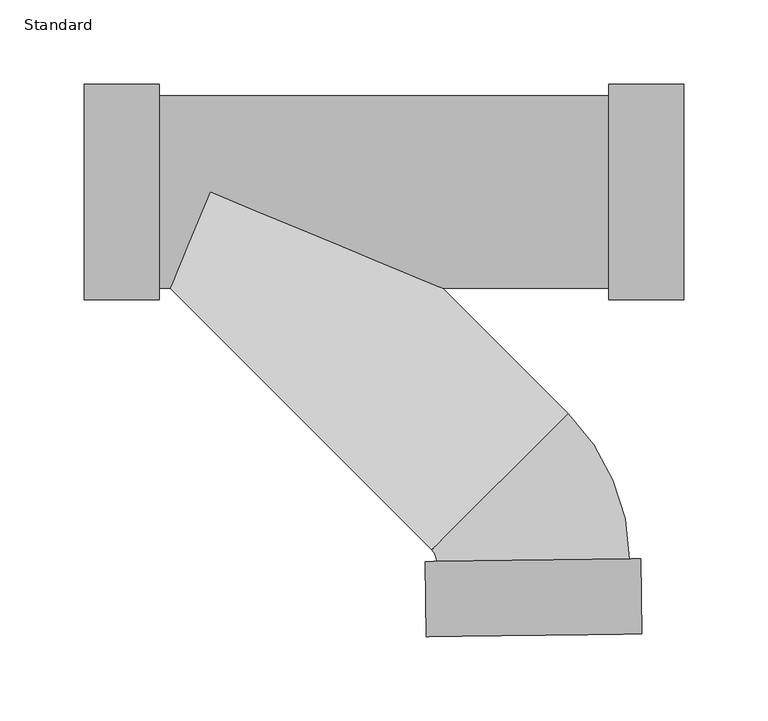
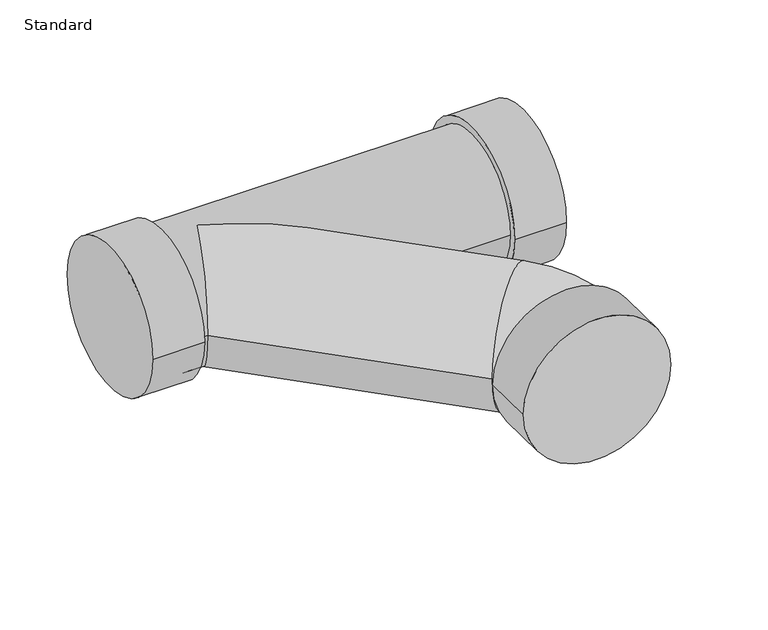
"""IFC4 building model written with IfcOpenShell, lengths in millimetres: pipe fitting geometry, GES Wye Combination with 8th Bend - PVC - Sch 40 - DWV : Standard."""

from ifc_helpers import new_model, si_unit, point, frame, origin, place, context, project, spatial, circle_curve, ellipse_curve, trimmed, source, transform, mapped, element, save
from ifc_brep_helpers import plane_surface, cylinder_surface, revolved_surface, advanced_brep


def standard_fcad7560(model_context):
    return source(origin(), model_context, "Body", "AdvancedBrep", [
        advanced_brep(
        [(-263.1663791, -63.754, 0.0), (-263.1663791, 63.754, 0.0), (-218.7163791, -63.754, 0.0), (-218.7163791, 63.754, 0.0), (-218.7163791, -57.15, 0.0), (-218.7163791, 57.15, 0.0), (47.5772209, 57.15, 0.0), (-212.3274389, -57.15, 0.0), (-188.6551338, 0.0, 57.15), (-50.6828287, -57.15, 0.0), (47.5772209, -57.15, 0.0), (-188.6551338, 0.0, -57.15), (47.5772209, -63.754, 0.0), (47.5772209, 63.754, 0.0), (92.0272209, -63.754, 0.0), (92.0272209, 63.754, 0.0), (-57.262686, -212.2147529, 0.0), (-54.399257, -219.0065327, 0.0), (59.8916987, -217.5686673, 0.0), (23.5596191, -131.3924478, 0.0), (-61.0027344, -219.0896094, 0.0), (66.4951761, -217.4855906, 0.0), (-60.4435645, -263.5360922, 0.0), (67.054346, -261.9320733, 0.0)],
        [
            (0, 1, circle_curve(frame((-263.1663791, 0.0, 0.0), z_axis=(-1.0, 0.0, 0.0), x_axis=(0.0, 1.0, 0.0)), 63.754)),
            (1, 0, circle_curve(frame((-263.1663791, 0.0, 0.0), z_axis=(-1.0, 0.0, 0.0), x_axis=(0.0, 1.0, 0.0)), 63.754)),
            (2, 3, circle_curve(frame((-218.7163791, 0.0, 0.0), z_axis=(1.0, 0.0, 0.0), x_axis=(0.0, 1.0, 0.0)), 63.754)),
            (3, 2, circle_curve(frame((-218.7163791, 0.0, 0.0), z_axis=(1.0, 0.0, 0.0), x_axis=(0.0, 1.0, 0.0)), 63.754)),
            (4, 5, circle_curve(frame((-218.7163791, 0.0, 0.0), z_axis=(-1.0, 0.0, 0.0), x_axis=(0.0, 1.0, 0.0)), 57.15)),
            (5, 4, circle_curve(frame((-218.7163791, 0.0, 0.0), z_axis=(-1.0, 0.0, 0.0), x_axis=(0.0, 1.0, 0.0)), 57.15)),
            (0, 2),
            (3, 1),
            (6, 5),
            (4, 7),
            (7, 8, ellipse_curve(frame((-188.6551338, 0.0, 0.0), z_axis=(-0.9238795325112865, 0.38268343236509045, 0.0), x_axis=(-0.38268343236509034, -0.9238795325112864, 0.0)), 61.8587142, 57.15)),
            (8, 9, ellipse_curve(frame((-188.6551338, 0.0, 0.0), z_axis=(0.38268343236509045, 0.9238795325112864, 0.0), x_axis=(-0.9238795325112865, 0.3826834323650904, 0.0)), 149.3401469, 57.15)),
            (9, 10),
            (10, 6, circle_curve(frame((47.5772209, 0.0, 0.0), z_axis=(-1.0, 0.0, 0.0), x_axis=(0.0, 1.0, 0.0)), 57.15)),
            (6, 10, circle_curve(frame((47.5772209, 0.0, 0.0), z_axis=(-1.0, 0.0, 0.0), x_axis=(0.0, 1.0, 0.0)), 57.15)),
            (9, 11, ellipse_curve(frame((-188.6551338, 0.0, 0.0), z_axis=(0.38268343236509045, 0.9238795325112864, 0.0), x_axis=(-0.9238795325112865, 0.3826834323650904, 0.0)), 149.3401469, 57.15)),
            (11, 7, ellipse_curve(frame((-188.6551338, 0.0, 0.0), z_axis=(-0.9238795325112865, 0.38268343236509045, 0.0), x_axis=(-0.38268343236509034, -0.9238795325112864, 0.0)), 61.8587142, 57.15)),
            (12, 13, circle_curve(frame((47.5772209, 0.0, 0.0), z_axis=(-1.0, 0.0, 0.0), x_axis=(0.0, 1.0, 0.0)), 63.754)),
            (13, 12, circle_curve(frame((47.5772209, 0.0, 0.0), z_axis=(-1.0, 0.0, 0.0), x_axis=(0.0, 1.0, 0.0)), 63.754)),
            (14, 15, circle_curve(frame((92.0272209, 0.0, 0.0), z_axis=(1.0, 0.0, 0.0), x_axis=(0.0, 1.0, 0.0)), 63.754)),
            (15, 14, circle_curve(frame((92.0272209, 0.0, 0.0), z_axis=(1.0, 0.0, 0.0), x_axis=(0.0, 1.0, 0.0)), 63.754)),
            (12, 14),
            (15, 13),
            (16, 17, circle_curve(frame((-64.1774832, -219.1295501, 0.0), z_axis=(0.0, 0.0, -1.0), x_axis=(0.9999208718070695, 0.012579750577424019, 0.0)), 9.779)),
            (17, 18, circle_curve(frame((2.7462209, -218.2876, 0.0), z_axis=(-0.012579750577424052, 0.9999208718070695, 0.0), x_axis=(-0.9999208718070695, -0.012579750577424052, 0.0)), 57.15)),
            (18, 19, circle_curve(frame((-64.1774832, -219.1295501, 0.0), z_axis=(0.0, 0.0, 1.0), x_axis=(0.9999208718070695, 0.012579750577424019, 0.0)), 124.079)),
            (19, 16, circle_curve(frame((-16.8515334, -171.8036004, 0.0), z_axis=(0.7071067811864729, -0.7071067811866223, 0.0), x_axis=(-0.7071067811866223, -0.7071067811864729, 0.0)), 57.15)),
            (16, 19, circle_curve(frame((-16.8515334, -171.8036004, 0.0), z_axis=(0.707106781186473, -0.7071067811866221, 0.0), x_axis=(-0.7071067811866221, -0.707106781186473, 0.0)), 57.15)),
            (18, 17, circle_curve(frame((2.7462209, -218.2876, 0.0), z_axis=(-0.012579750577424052, 0.9999208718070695, 0.0), x_axis=(-0.9999208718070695, -0.012579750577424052, 0.0)), 57.15)),
            (19, 9),
            (7, 16),
            (20, 21, circle_curve(frame((2.7462209, -218.2876, 0.0), z_axis=(-0.012579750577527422, 0.9999208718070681, 0.0), x_axis=(0.9999208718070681, 0.012579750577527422, 0.0)), 63.754)),
            (21, 20, circle_curve(frame((2.7462209, -218.2876, 0.0), z_axis=(-0.012579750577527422, 0.9999208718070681, 0.0), x_axis=(0.9999208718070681, 0.012579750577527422, 0.0)), 63.754)),
            (22, 23, circle_curve(frame((3.3053908, -262.7340828, 0.0), z_axis=(0.012579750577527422, -0.9999208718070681, 0.0), x_axis=(0.9999208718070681, 0.012579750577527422, 0.0)), 63.754)),
            (23, 22, circle_curve(frame((3.3053908, -262.7340828, 0.0), z_axis=(0.012579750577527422, -0.9999208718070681, 0.0), x_axis=(0.9999208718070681, 0.012579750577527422, 0.0)), 63.754)),
            (20, 22),
            (23, 21),
        ],
        [
            plane_surface(frame((-263.1663791, 0.0, 0.0), z_axis=(-1.0, 0.0, 0.0), x_axis=(0.0, 0.0, 1.0))),
            plane_surface(frame((-218.7163791, 0.0, 0.0), z_axis=(1.0, 0.0, 0.0), x_axis=(0.0, 0.0, 1.0))),
            cylinder_surface(frame((-263.1663791, 0.0, 0.0), z_axis=(-1.0, 0.0, 0.0), x_axis=(0.0, 1.0, 0.0)), 63.754),
            cylinder_surface(frame((-218.7163791, 0.0, 0.0), z_axis=(-1.0, 0.0, 0.0), x_axis=(0.0, 1.0, 0.0)), 57.15),
            plane_surface(frame((47.5772209, 0.0, 0.0), z_axis=(-1.0, 0.0, 0.0), x_axis=(0.0, 0.0, 1.0))),
            plane_surface(frame((92.0272209, 0.0, 0.0), z_axis=(1.0, 0.0, 0.0), x_axis=(0.0, 0.0, 1.0))),
            cylinder_surface(frame((47.5772209, 0.0, 0.0), z_axis=(-1.0, 0.0, 0.0), x_axis=(0.0, 1.0, 0.0)), 63.754),
            revolved_surface(trimmed(ellipse_curve(frame((2.7462209, -218.2876, 0.0), z_axis=(0.012579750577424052, -0.9999208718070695, 0.0), x_axis=(-0.9999208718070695, -0.012579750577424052, 0.0)), 57.15, 57.15), [point((59.8916987, -217.5686673, 0.0))], [point((-54.399257, -219.0065327, 0.0))], True, "CARTESIAN"), (-64.1774832, -219.1295501, 0.0), (0.0, 0.0, 1.0)),
            revolved_surface(trimmed(ellipse_curve(frame((2.7462209, -218.2876, 0.0), z_axis=(0.012579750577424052, -0.9999208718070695, 0.0), x_axis=(-0.9999208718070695, -0.012579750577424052, 0.0)), 57.15, 57.15), [point((-54.399257, -219.0065327, 0.0))], [point((59.8916987, -217.5686673, 0.0))], True, "CARTESIAN"), (-64.1774832, -219.1295501, 0.0), (0.0, 0.0, 1.0)),
            cylinder_surface(frame((-16.8515334, -171.8036004, 0.0), z_axis=(0.7071067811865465, -0.7071067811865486, 0.0), x_axis=(-0.7071067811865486, -0.7071067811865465, 0.0)), 57.15),
            plane_surface(frame((2.7462209, -218.2876, 0.0), z_axis=(-0.012579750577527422, 0.9999208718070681, 0.0), x_axis=(0.0, 0.0, 1.0))),
            plane_surface(frame((3.3053908, -262.7340828, 0.0), z_axis=(0.012579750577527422, -0.9999208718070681, 0.0), x_axis=(0.0, 0.0, 1.0))),
            cylinder_surface(frame((2.7462209, -218.2876, 0.0), z_axis=(-0.012579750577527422, 0.9999208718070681, 0.0), x_axis=(0.9999208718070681, 0.012579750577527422, 0.0)), 63.754),
        ],
        [
            (0, [[1, 2]]),
            (1, [[3, 4], [5, 6]]),
            (2, [[-1, 7, -4, 8]]),
            (2, [[-2, -8, -3, -7]]),
            (3, [[9, -5, 10, 11, 12, 13, 14]]),
            (3, [[-9, 15, -13, 16, 17, -10, -6]]),
            (4, [[18, 19], [-14, -15]]),
            (5, [[20, 21]]),
            (6, [[-18, 22, -21, 23]]),
            (6, [[-19, -23, -20, -22]]),
            (7, [[24, 25, 26, 27]]),
            (8, [[-24, 28, -26, 29]]),
            (9, [[-27, 30, -12, -11, 31]]),
            (9, [[-28, -31, -17, -16, -30]]),
            (10, [[32, 33], [-25, -29]]),
            (11, [[34, 35]]),
            (12, [[-32, 36, -35, 37]]),
            (12, [[-33, -37, -34, -36]]),
        ],
    ),
    ])


if __name__ == "__main__":
    model = new_model("IFC4")
    model_context = context("Model", 3, world=origin())
    ifc_project = project(units=[si_unit("LENGTHUNIT", "METRE", prefix="MILLI")], contexts=[model_context])
    site = spatial("IfcSite", under=ifc_project)
    building = spatial("IfcBuilding", under=site)
    placement = place(None, origin())
    standard_shape = standard_fcad7560(model_context)
    element("IfcPipeFitting", 1, ObjectType="GES Wye Combination with 8th Bend - PVC - Sch 40 - DWV : Standard", at=placement, inside=building, context=model_context, shape_type="MappedRepresentation", body=[
        mapped(standard_shape, transform((0.0, 0.0, 0.0), x_axis=(1.0, 0.0, 0.0), y_axis=(0.0, 1.0, 0.0), z_axis=(0.0, 0.0, 1.0))),
    ])
    save(model, "model.ifc")
